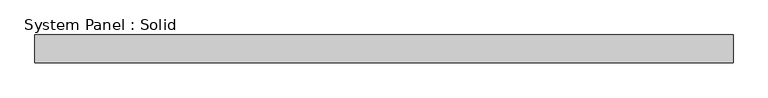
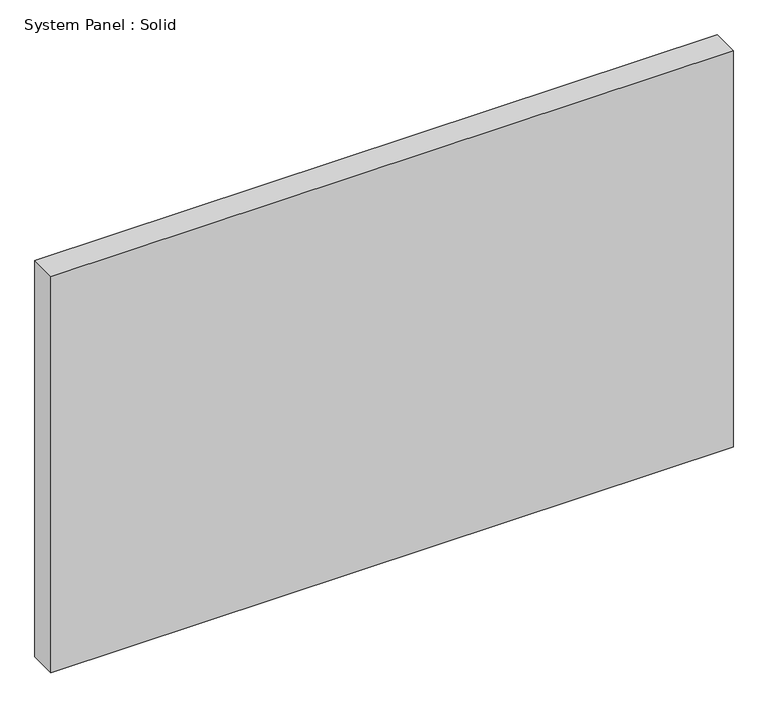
"""IFC4 building model written with IfcOpenShell, lengths in millimetres: plate geometry, System Panel : Solid."""

from ifc_helpers import new_model, si_unit, origin, origin_with_axes, place, context, project, spatial, polyline, outline, extrude, source, transform, mapped, element, save


def system_panel_solid_39076b36(model_context):
    return source(origin(), model_context, "Body", "SweptSolid", [
        extrude(outline(polyline([(790.575, -19.05), (-790.575, -19.05), (-790.575, 44.45), (790.575, 44.45), (790.575, -19.05)])), origin_with_axes(), (0.0, 0.0, 1.0), 971.55),
    ])


if __name__ == "__main__":
    model = new_model("IFC4")
    model_context = context("Model", 3, world=origin())
    ifc_project = project(units=[si_unit("LENGTHUNIT", "METRE", prefix="MILLI")], contexts=[model_context])
    site = spatial("IfcSite", under=ifc_project)
    building = spatial("IfcBuilding", under=site)
    placement = place(None, origin())
    system_panel_solid_shape = system_panel_solid_39076b36(model_context)
    element("IfcPlate", 1, ObjectType="System Panel : Solid", at=placement, inside=building, context=model_context, shape_type="MappedRepresentation", body=[
        mapped(system_panel_solid_shape, transform((0.0, 0.0, 0.0), x_axis=(1.0, 0.0, 0.0), y_axis=(0.0, 1.0, 0.0), z_axis=(0.0, 0.0, 1.0))),
    ])
    save(model, "model.ifc")
